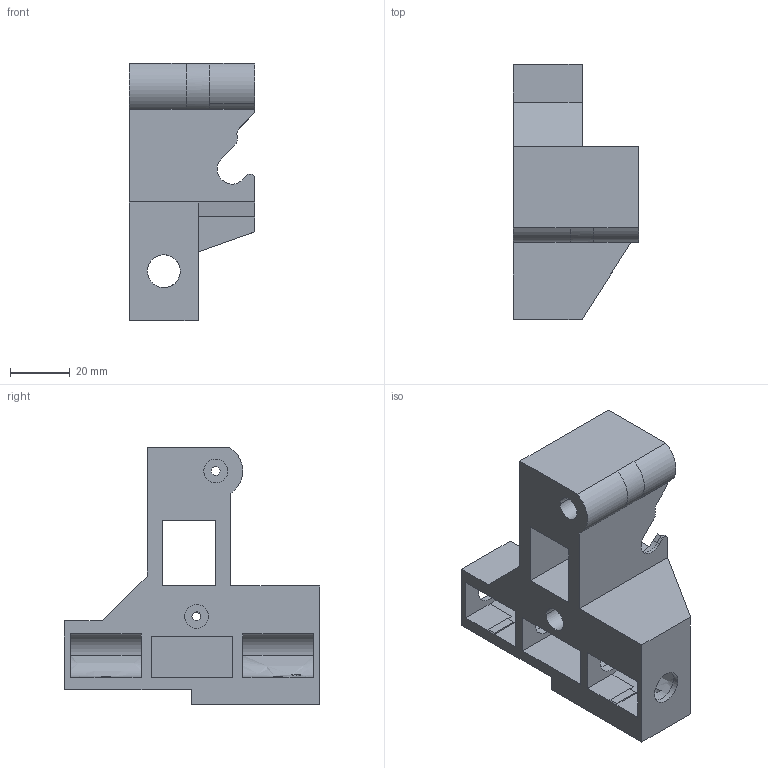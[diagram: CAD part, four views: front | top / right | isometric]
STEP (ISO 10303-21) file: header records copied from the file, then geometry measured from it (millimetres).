
FILE_DESCRIPTION(/* description */ (''),/* implementation_level */ '2;1');
FILE_NAME(/* name */ 'URTCLD~1',/* time_stamp */ '2019-04-01T20:10:04-03:00',/* author */ (''),/* organization */ (''),/* preprocessor_version */ 'ST-DEVELOPER v16.5',/* originating_system */ '',/* authorisation */ '');
FILE_SCHEMA (('AUTOMOTIVE_DESIGN'));
Length unit declared in the file: millimetre
Products named in the file (1): Document
Bounding box: 41.89 x 85.4 x 86.31 mm (x, y, z)
Volume: 90706.2 mm3; surface area: 27456.1 mm2
Topology: 1 solids, 1 shells, 102 faces, 280 edges, 183 vertices
Faces by surface type: plane 59, bspline 43
Entity records: 3322 total; most frequent: CARTESIAN_POINT 1596, ORIENTED_EDGE 560, EDGE_CURVE 280, VERTEX_POINT 183, B_SPLINE_CURVE_WITH_KNOTS 159, EDGE_LOOP 123, ADVANCED_FACE 102, FACE_OUTER_BOUND 102
